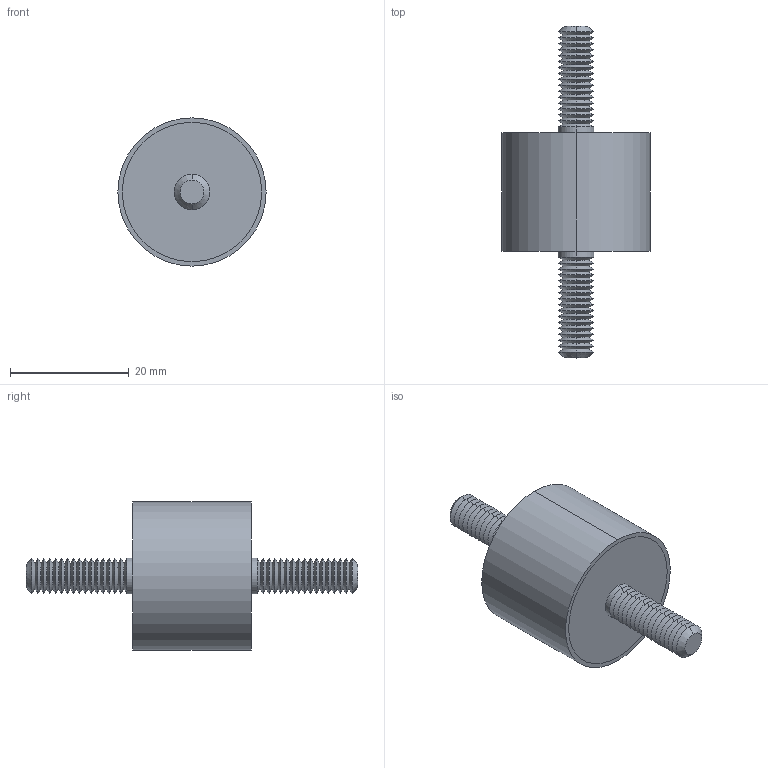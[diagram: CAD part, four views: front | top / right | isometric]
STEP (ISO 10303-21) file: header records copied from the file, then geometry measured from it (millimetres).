
FILE_DESCRIPTION (( 'STEP AP203' ), '1' );
FILE_NAME ('61040.W0254.step', '2019-09-24T22:32:18', ( '' ), ( '' ), 'SwSTEP 2.0', 'SolidWorks 2017', '' );
FILE_SCHEMA (( 'CONFIG_CONTROL_DESIGN' ));
Length unit declared in the file: millimetre
Products named in the file (4): Part3_61040.W0254; Part1_61040.W0254; 61040.W0254; Part2_61040.W0254
Assembly tree (3 placements, depth 2):
  61040.W0254
    Part1_61040.W0254
    Part2_61040.W0254
    Part3_61040.W0254
Bounding box: 25 x 56 x 25 mm (x, y, z)
Volume: 10582.5 mm3; surface area: 5665.8 mm2
Topology: 3 solids, 3 shells, 156 faces, 306 edges, 160 vertices
Faces by surface type: cone 132, cylinder 14, plane 10
Entity records: 4308 total; most frequent: DIRECTION 790, CARTESIAN_POINT 628, ORIENTED_EDGE 612, AXIS2_PLACEMENT_3D 322, EDGE_CURVE 306, EDGE_LOOP 160, VERTEX_POINT 160, CIRCLE 160
